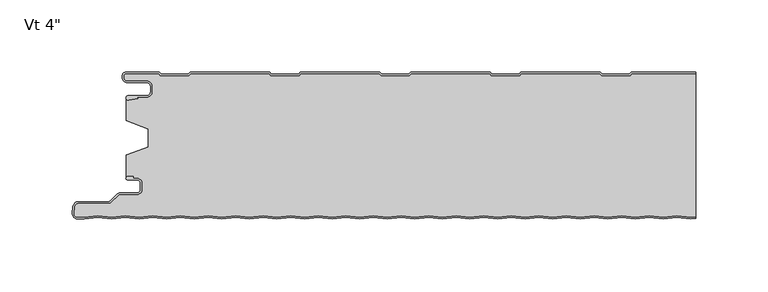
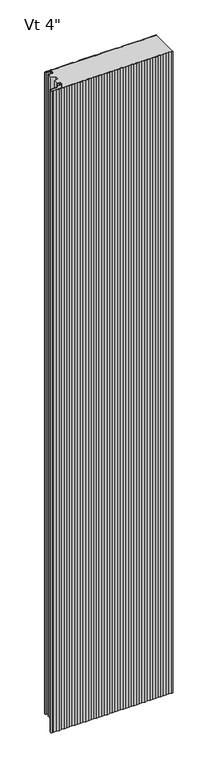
"""IFC4 building model written with IfcOpenShell, lengths in millimetres: plate geometry."""

from ifc_helpers import new_model, si_unit, point, frame, frame_2d, origin, origin_with_axes, place, context, project, spatial, polyline, circle_curve, trimmed, segment, composite_curve, outline, extrude, source, transform, mapped, element, save
from ifc_brep_helpers import plane_surface, cylinder_surface, revolved_surface, advanced_brep


def plate_d31e28da(model_context):
    return source(origin(), model_context, "Body", "SolidModel", [
        extrude(outline(composite_curve([segment(polyline([(-196.9639401, -1.03e-05), (-173.8991777, -1.03e-05), (-172.6989573, -1.2002307), (-153.8919247, -1.2002307), (-152.6916939, 0.0), (-97.6993404, 0.0), (-96.4991097, -1.2002307), (-77.6920771, -1.2002307), (-76.4918463, 0.0), (-21.5159312, 0.0), (-20.3157004, -1.2002307), (-1.5086678, -1.2002307), (-0.3084371, 0.0), (54.667478, 0.0), (55.8677088, -1.2002307), (74.6747414, -1.2002307), (75.8749721, 0.0), (130.8673256, 0.0), (132.0675564, -1.2002307), (150.874589, -1.2002307), (152.0748197, 0.0), (196.6137654, 0.0), (196.6137654, -1.0), (152.4890333, -1.0), (151.2888025, -2.2002307), (131.6533428, -2.2002307), (130.4531121, -1.0), (76.2891857, -1.0), (75.0889549, -2.2002307), (55.4534952, -2.2002307), (54.2532645, -1.0), (0.1057765, -1.0), (-1.0944543, -2.2002307), (-20.729914, -2.2002307), (-21.9301447, -1.0), (-76.0776328, -1.0), (-77.2778635, -2.2002307), (-96.9133232, -2.2002307), (-98.113554, -1.0), (-152.2774804, -1.0), (-153.4777111, -2.2002307), (-173.1131708, -2.2002307), (-174.3133912, -1.0000103), (-196.9839768, -1.0000103)]), True, "CONTINUOUS"), segment(trimmed(circle_curve(frame_2d((-197.0487242, -2.3984828)), 1.3999705), [point((-196.9839768, -1.0000103))], [point((-198.4486947, -2.3984828))], True, "CARTESIAN"), True, "CONTINUOUS"), segment(polyline([(-198.4486947, -2.3984828), (-198.4486947, -3.9515996)]), True, "CONTINUOUS"), segment(trimmed(circle_curve(frame_2d((-196.2386394, -3.9515996)), 2.2100553), [point((-198.4486947, -3.9515996))], [point((-196.2386394, -6.1616549))], True, "CARTESIAN"), True, "CONTINUOUS"), segment(polyline([(-196.2386394, -6.1616549), (-182.7094114, -6.1616549)]), True, "CONTINUOUS"), segment(trimmed(circle_curve(frame_2d((-182.7094114, -9.881641)), 3.7199861), [point((-182.7094114, -6.1616549))], [point((-178.9894252, -9.881641))], False, "CARTESIAN"), True, "CONTINUOUS"), segment(polyline([(-178.9894252, -9.881641), (-178.9894252, -13.5282389)]), True, "CONTINUOUS"), segment(trimmed(circle_curve(frame_2d((-182.7094216, -13.5282389)), 3.7199964), [point((-178.9894252, -13.5282389))], [point((-182.7094216, -17.2482353))], False, "CARTESIAN"), True, "CONTINUOUS"), segment(polyline([(-182.7094216, -17.2482353), (-189.0545396, -17.2482353), (-188.8919338, -18.1704184), (-195.1454629, -19.2730843)]), True, "CONTINUOUS"), segment(trimmed(circle_curve(frame_2d((-195.4101029, -17.7722363)), 1.524001), [point((-195.1454629, -19.2730843))], [point((-195.4101029, -16.2482353))], False, "CARTESIAN"), True, "CONTINUOUS"), segment(polyline([(-195.4101029, -16.2482353), (-182.7094216, -16.2482353)]), True, "CONTINUOUS"), segment(trimmed(circle_curve(frame_2d((-182.7094216, -13.5282389)), 2.7199964), [point((-182.7094216, -16.2482353))], [point((-179.9894252, -13.5282389))], True, "CARTESIAN"), True, "CONTINUOUS"), segment(polyline([(-179.9894252, -13.5282389), (-179.9894252, -9.881641)]), True, "CONTINUOUS"), segment(trimmed(circle_curve(frame_2d((-182.7094114, -9.881641)), 2.7199861), [point((-179.9894252, -9.881641))], [point((-182.7094114, -7.1616549))], True, "CARTESIAN"), True, "CONTINUOUS"), segment(polyline([(-182.7094114, -7.1616549), (-196.2386394, -7.1616549)]), True, "CONTINUOUS"), segment(trimmed(circle_curve(frame_2d((-196.2386394, -3.9515996)), 3.2100553), [point((-196.2386394, -7.1616549))], [point((-199.4486948, -3.9515996))], False, "CARTESIAN"), True, "CONTINUOUS"), segment(polyline([(-199.4486948, -3.9515996), (-199.4486947, -2.3984828)]), True, "CONTINUOUS"), segment(trimmed(circle_curve(frame_2d((-197.0487242, -2.3984828)), 2.3999705), [point((-199.4486947, -2.3984828))], [point((-196.9639401, -1.03e-05))], False, "CARTESIAN"), True, "CONTINUOUS")], self_intersect=False)), origin_with_axes(), (0.0, 0.0, 1.0), 2400.0),
        extrude(outline(composite_curve([segment(polyline([(-195.7329864, -72.0783009), (-191.9745857, -72.0783009), (-191.9745857, -73.4767845), (-189.2754693, -73.4767845)]), True, "CONTINUOUS"), segment(trimmed(circle_curve(frame_2d((-189.2754693, -76.8267844)), 3.3499999), [point((-189.2754693, -73.4767845))], [point((-185.9254694, -76.8267844))], False, "CARTESIAN"), True, "CONTINUOUS"), segment(polyline([(-185.9254694, -76.8267844), (-185.9254694, -81.2267842)]), True, "CONTINUOUS"), segment(trimmed(circle_curve(frame_2d((-189.2754693, -81.2267842)), 3.3499999), [point((-185.9254694, -81.2267842))], [point((-189.2754693, -84.5767841))], False, "CARTESIAN"), True, "CONTINUOUS"), segment(polyline([(-189.2754693, -84.5767841), (-201.0863815, -84.5767841)]), True, "CONTINUOUS"), segment(trimmed(circle_curve(frame_2d((-201.0863815, -86.2767841)), 1.7), [point((-201.0863815, -84.5767841))], [point((-202.288463, -85.0747026))], True, "CARTESIAN"), True, "CONTINUOUS"), segment(polyline([(-202.288463, -85.0747026), (-207.029022, -89.8152615)]), True, "CONTINUOUS"), segment(trimmed(circle_curve(frame_2d((-208.8674996, -87.9767839)), 2.6), [point((-207.029022, -89.8152615))], [point((-208.8674996, -90.5767839))], False, "CARTESIAN"), True, "CONTINUOUS"), segment(polyline([(-208.8674996, -90.5767839), (-229.8742569, -90.5767839)]), True, "CONTINUOUS"), segment(trimmed(circle_curve(frame_2d((-229.8742569, -93.2767839)), 2.7), [point((-229.8742569, -90.5767839))], [point((-232.563964, -93.0412511))], True, "CARTESIAN"), True, "CONTINUOUS"), segment(polyline([(-232.563964, -93.0412511), (-232.9796492, -97.7882397)]), True, "CONTINUOUS"), segment(trimmed(circle_curve(frame_2d((-230.4287597, -98.0116164)), 2.5606512), [point((-232.9796492, -97.7882397))], [point((-230.4287597, -100.5722676))], True, "CARTESIAN"), True, "CONTINUOUS"), segment(polyline([(-230.4287597, -100.5722676), (-225.7790982, -100.5722676), (-216.4481844, -99.5350254), (-206.9232034, -100.5938405), (-197.3982225, -99.5350254), (-187.8732415, -100.5938405), (-178.3482606, -99.5350254), (-168.8232796, -100.5938405), (-159.2982987, -99.5350254), (-149.7733177, -100.5938405), (-140.2483368, -99.5350254), (-130.7233558, -100.5938405), (-121.1983749, -99.5350254), (-111.6733939, -100.5938405), (-102.148413, -99.5350254), (-92.623432, -100.5938405), (-83.0984511, -99.5350254), (-73.5734701, -100.5938405), (-64.0484892, -99.5350254), (-54.5235082, -100.5938405), (-44.9985273, -99.5350254), (-35.4735463, -100.5938405), (-25.9485654, -99.5350254), (-16.4235844, -100.5938405), (-6.8986035, -99.5350254), (2.6263775, -100.5938405), (12.1513584, -99.5350254), (21.6763394, -100.5938405), (31.2013203, -99.5350254), (40.7263013, -100.5938405), (50.2512822, -99.5350254), (59.7762632, -100.5938405), (69.3012441, -99.5350254), (78.8262251, -100.5938405), (88.351206, -99.5350254), (97.876187, -100.5938405), (107.4011679, -99.5350254), (116.9261489, -100.5938405), (126.4511298, -99.5350254), (135.9761108, -100.5938405), (145.5010917, -99.5350254), (155.0260727, -100.5938405), (164.5510536, -99.5350254), (174.0760346, -100.5938405), (183.6010155, -99.5350254), (193.1259965, -100.5938405), (196.6137654, -100.2061334), (196.6137654, -101.2122929), (193.1259965, -101.6), (183.6010155, -100.5411849), (174.0760346, -101.6), (164.5510536, -100.5411849), (155.0260727, -101.6), (145.5010917, -100.5411849), (135.9761108, -101.6), (126.4511298, -100.5411849), (116.9261489, -101.6), (107.4011679, -100.5411849), (97.876187, -101.6), (88.351206, -100.5411849), (78.8262251, -101.6), (69.3012441, -100.5411849), (59.7762632, -101.6), (50.2512822, -100.5411849), (40.7263013, -101.6), (31.2013203, -100.5411849), (21.6763394, -101.6), (12.1513584, -100.5411849), (2.6263775, -101.6), (-6.8986035, -100.5411849), (-16.4235844, -101.6), (-25.9485654, -100.5411849), (-35.4735463, -101.6), (-44.9985273, -100.5411849), (-54.5235082, -101.6), (-64.0484892, -100.5411849), (-73.5734701, -101.6), (-83.0984511, -100.5411849), (-92.623432, -101.6), (-102.148413, -100.5411849), (-111.6733939, -101.6), (-121.1983749, -100.5411849), (-130.7233558, -101.6), (-140.2483368, -100.5411849), (-149.7733177, -101.6), (-159.2982987, -100.5411849), (-168.8232796, -101.6), (-178.3482606, -100.5411849), (-187.8732415, -101.6), (-197.3982225, -100.5411849), (-206.9232034, -101.6), (-216.4481844, -100.5411849), (-225.7236879, -101.5722676), (-230.4287597, -101.5722676)]), True, "CONTINUOUS"), segment(trimmed(circle_curve(frame_2d((-230.4287597, -98.0116164)), 3.5606512), [point((-230.4287597, -101.5722676))], [point((-233.975837, -97.7010053))], False, "CARTESIAN"), True, "CONTINUOUS"), segment(polyline([(-233.975837, -97.7010053), (-233.5601518, -92.9540168)]), True, "CONTINUOUS"), segment(trimmed(circle_curve(frame_2d((-229.8742569, -93.2767839)), 3.7), [point((-233.5601518, -92.9540168))], [point((-229.8742569, -89.5767839))], False, "CARTESIAN"), True, "CONTINUOUS"), segment(polyline([(-229.8742569, -89.5767839), (-208.8674996, -89.5767839)]), True, "CONTINUOUS"), segment(trimmed(circle_curve(frame_2d((-208.8674996, -87.9767839)), 1.6), [point((-208.8674996, -89.5767839))], [point((-207.7361288, -89.1081547))], True, "CARTESIAN"), True, "CONTINUOUS"), segment(polyline([(-207.7361288, -89.1081547), (-202.9955698, -84.3675958)]), True, "CONTINUOUS"), segment(trimmed(circle_curve(frame_2d((-201.0863815, -86.2767841)), 2.7), [point((-202.9955698, -84.3675958))], [point((-201.0863815, -83.5767841))], False, "CARTESIAN"), True, "CONTINUOUS"), segment(polyline([(-201.0863815, -83.5767841), (-189.2754693, -83.5767841)]), True, "CONTINUOUS"), segment(trimmed(circle_curve(frame_2d((-189.2754693, -81.2267842)), 2.3499999), [point((-189.2754693, -83.5767841))], [point((-186.9254694, -81.2267842))], True, "CARTESIAN"), True, "CONTINUOUS"), segment(polyline([(-186.9254694, -81.2267842), (-186.9254694, -76.8267844)]), True, "CONTINUOUS"), segment(trimmed(circle_curve(frame_2d((-189.2754693, -76.8267844)), 2.3499999), [point((-186.9254694, -76.8267844))], [point((-189.2754693, -74.4767845))], True, "CARTESIAN"), True, "CONTINUOUS"), segment(polyline([(-189.2754693, -74.4767845), (-195.7947883, -74.4767845)]), True, "CONTINUOUS"), segment(trimmed(circle_curve(frame_2d((-195.734501, -73.2782999)), 1.2), [point((-195.7947883, -74.4767845))], [point((-195.7329864, -72.0783009))], False, "CARTESIAN"), True, "CONTINUOUS")], self_intersect=False)), origin_with_axes(), (0.0, 0.0, 1.0), 2400.0),
        advanced_brep(
        [(-189.2754693, -73.482944, 2400.0), (-185.9254694, -76.8329439, 2400.0), (-185.9254694, -81.2329437, 2400.0), (-189.2754693, -84.5829436, 2400.0), (-201.0863815, -84.5829436, 2400.0), (-202.288463, -85.0808621, 2400.0), (-207.029022, -89.821421, 2400.0), (-208.8674996, -90.5829434, 2400.0), (-229.8742569, -90.5829434, 2400.0), (-232.563964, -93.0474106, 2400.0), (-232.9796492, -97.7943992, 2400.0), (-230.4287597, -100.5784271, 2400.0), (-225.77874, -100.5784271, 2400.0), (-216.4478261, -99.5411849, 2400.0), (-206.9228452, -100.6, 2400.0), (-197.3978642, -99.5411849, 2400.0), (-187.8728833, -100.6, 2400.0), (-178.3479023, -99.5411849, 2400.0), (-168.8229214, -100.6, 2400.0), (-159.2979404, -99.5411849, 2400.0), (-149.7729595, -100.6, 2400.0), (-140.2479785, -99.5411849, 2400.0), (-130.7229976, -100.6, 2400.0), (-121.1980166, -99.5411849, 2400.0), (-111.6730357, -100.6, 2400.0), (-102.1480547, -99.5411849, 2400.0), (-92.6230738, -100.6, 2400.0), (-83.0980928, -99.5411849, 2400.0), (-73.5731119, -100.6, 2400.0), (-64.0481309, -99.5411849, 2400.0), (-54.52315, -100.6, 2400.0), (-44.998169, -99.5411849, 2400.0), (-35.4731881, -100.6, 2400.0), (-25.9482071, -99.5411849, 2400.0), (-16.4232262, -100.6, 2400.0), (-6.8982452, -99.5411849, 2400.0), (2.6267357, -100.6, 2400.0), (12.1517167, -99.5411849, 2400.0), (21.6766976, -100.6, 2400.0), (31.2016786, -99.5411849, 2400.0), (40.7266595, -100.6, 2400.0), (50.2516405, -99.5411849, 2400.0), (59.7766214, -100.6, 2400.0), (69.3016024, -99.5411849, 2400.0), (78.8265833, -100.6, 2400.0), (88.3515643, -99.5411849, 2400.0), (97.8765452, -100.6, 2400.0), (107.4015262, -99.5411849, 2400.0), (116.9265071, -100.6, 2400.0), (126.4514881, -99.5411849, 2400.0), (135.976469, -100.6, 2400.0), (145.50145, -99.5411849, 2400.0), (155.0264309, -100.6, 2400.0), (164.5514119, -99.5411849, 2400.0), (174.0763928, -100.6, 2400.0), (183.6013738, -99.5411849, 2400.0), (193.1263547, -100.6, 2400.0), (196.6137654, -100.2123328, 2400.0), (196.6137654, -1.0, 2400.0), (152.4890333, -1.0, 2400.0), (151.2888025, -2.2002307, 2400.0), (131.6533428, -2.2002307, 2400.0), (130.4531121, -1.0, 2400.0), (76.2891857, -1.0, 2400.0), (75.0889549, -2.2002307, 2400.0), (55.4534952, -2.2002307, 2400.0), (54.2532645, -1.0, 2400.0), (0.1057765, -1.0, 2400.0), (-1.0944543, -2.2002307, 2400.0), (-20.729914, -2.2002307, 2400.0), (-21.9301447, -1.0, 2400.0), (-76.0776328, -1.0, 2400.0), (-77.2778635, -2.2002307, 2400.0), (-96.9133232, -2.2002307, 2400.0), (-98.113554, -1.0, 2400.0), (-152.2774804, -1.0, 2400.0), (-153.4777111, -2.2002307, 2400.0), (-173.1131708, -2.2002307, 2400.0), (-174.3133912, -1.0000103, 2400.0), (-196.9839768, -1.0000103, 2400.0), (-198.4486947, -2.3984828, 2400.0), (-198.4486947, -3.9515996, 2400.0), (-196.2386394, -6.1616549, 2400.0), (-182.7094114, -6.1616549, 2400.0), (-178.9894252, -9.881641, 2400.0), (-178.9894252, -13.5282389, 2400.0), (-182.7094216, -17.2482353, 2400.0), (-189.0545396, -17.2482353, 2400.0), (-188.8919338, -18.1704184, 2400.0), (-195.1454629, -19.2730843, 2400.0), (-196.5999998, -18.7244571, 2400.0), (-196.5999998, -33.5050578, 2400.0), (-181.6020466, -39.1301019, 2400.0), (-181.588281, -51.7686066, 2400.0), (-196.5999998, -57.3712613, 2400.0), (-196.5999998, -72.4532484, 2400.0), (-195.7329864, -72.0844604, 2400.0), (-191.9745857, -72.0844604, 2400.0), (-191.9745857, -73.482944, 2400.0), (-189.2754693, -73.482944, 0.0), (-191.9745857, -73.482944, 0.0), (-191.9745857, -72.0844604, 0.0), (-195.7329864, -72.0844604, 0.0), (-196.5999998, -72.4532484, 0.0), (-196.5999998, -57.3712613, 0.0), (-181.6020466, -51.7470337, 0.0), (-181.588281, -39.1301019, 0.0), (-196.5999998, -33.5050578, 0.0), (-196.5999998, -18.7244571, 0.0), (-195.1454629, -19.2730843, 0.0), (-188.8919338, -18.1704184, 0.0), (-189.0545396, -17.2482353, 0.0), (-182.7094216, -17.2482353, 0.0), (-178.9894252, -13.5282389, 0.0), (-178.9894252, -9.881641, 0.0), (-182.7094114, -6.1616549, 0.0), (-196.2386394, -6.1616549, 0.0), (-198.4486948, -3.9515996, 0.0), (-198.4486947, -2.3984828, 0.0), (-196.9839768, -1.0000103, 0.0), (-174.3133912, -1.0000103, 0.0), (-173.1131708, -2.2002307, 0.0), (-153.4777111, -2.2002307, 0.0), (-152.2774804, -1.0, 0.0), (-98.113554, -1.0, 0.0), (-96.9133232, -2.2002307, 0.0), (-77.2778635, -2.2002307, 0.0), (-76.0776328, -1.0, 0.0), (-21.9301447, -1.0, 0.0), (-20.729914, -2.2002307, 0.0), (-1.0944543, -2.2002307, 0.0), (0.1057765, -1.0, 0.0), (54.2532645, -1.0, 0.0), (55.4534952, -2.2002307, 0.0), (75.0889549, -2.2002307, 0.0), (76.2891857, -1.0, 0.0), (130.4531121, -1.0, 0.0), (131.6533428, -2.2002307, 0.0), (151.2888025, -2.2002307, 0.0), (152.4890333, -1.0, 0.0), (196.6137654, -1.0, 0.0), (196.6137654, -100.2123328, 0.0), (193.1263547, -100.6, 0.0), (183.6013738, -99.5411849, 0.0), (174.0763928, -100.6, 0.0), (164.5514119, -99.5411849, 0.0), (155.0264309, -100.6, 0.0), (145.50145, -99.5411849, 0.0), (135.976469, -100.6, 0.0), (126.4514881, -99.5411849, 0.0), (116.9265071, -100.6, 0.0), (107.4015262, -99.5411849, 0.0), (97.8765452, -100.6, 0.0), (88.3515643, -99.5411849, 0.0), (78.8265833, -100.6, 0.0), (69.3016024, -99.5411849, 0.0), (59.7766214, -100.6, 0.0), (50.2516405, -99.5411849, 0.0), (40.7266595, -100.6, 0.0), (31.2016786, -99.5411849, 0.0), (21.6766976, -100.6, 0.0), (12.1517167, -99.5411849, 0.0), (2.6267357, -100.6, 0.0), (-6.8982452, -99.5411849, 0.0), (-16.4232262, -100.6, 0.0), (-25.9482071, -99.5411849, 0.0), (-35.4731881, -100.6, 0.0), (-44.998169, -99.5411849, 0.0), (-54.52315, -100.6, 0.0), (-64.0481309, -99.5411849, 0.0), (-73.5731119, -100.6, 0.0), (-83.0980928, -99.5411849, 0.0), (-92.6230738, -100.6, 0.0), (-102.1480547, -99.5411849, 0.0), (-111.6730357, -100.6, 0.0), (-121.1980166, -99.5411849, 0.0), (-130.7229976, -100.6, 0.0), (-140.2479785, -99.5411849, 0.0), (-149.7729595, -100.6, 0.0), (-159.2979404, -99.5411849, 0.0), (-168.8229214, -100.6, 0.0), (-178.3479023, -99.5411849, 0.0), (-187.8728833, -100.6, 0.0), (-197.3978642, -99.5411849, 0.0), (-206.9228452, -100.6, 0.0), (-216.4478261, -99.5411849, 0.0), (-225.77874, -100.5784271, 0.0), (-230.4287597, -100.5784271, 0.0), (-232.9796492, -97.7943992, 0.0), (-232.563964, -93.0474106, 0.0), (-229.8742569, -90.5829434, 0.0), (-208.8674996, -90.5829434, 0.0), (-207.029022, -89.821421, 0.0), (-202.288463, -85.0808621, 0.0), (-201.0863815, -84.5829436, 0.0), (-189.2754693, -84.5829436, 0.0), (-185.9254694, -81.2329437, 0.0), (-185.9254694, -76.8329439, 0.0)],
        [
            (0, 1, circle_curve(frame((-189.2754693, -76.8329439, 2400.0), z_axis=(0.0, 0.0, -1.0), x_axis=(-1.0, 0.0, 0.0)), 3.3499999)),
            (1, 2),
            (2, 3, circle_curve(frame((-189.2754693, -81.2329437, 2400.0), z_axis=(0.0, 0.0, -1.0), x_axis=(-1.0, 0.0, 0.0)), 3.3499999)),
            (3, 4),
            (4, 5, circle_curve(frame((-201.0863815, -86.2829436, 2400.0), z_axis=(0.0, 0.0, 1.0), x_axis=(-1.0, 0.0, 0.0)), 1.7)),
            (5, 6),
            (6, 7, circle_curve(frame((-208.8674996, -87.9829434, 2400.0), z_axis=(0.0, 0.0, -1.0), x_axis=(-1.0, 0.0, 0.0)), 2.6)),
            (7, 8),
            (8, 9, circle_curve(frame((-229.8742569, -93.2829434, 2400.0), z_axis=(0.0, 0.0, 1.0), x_axis=(-1.0, 0.0, 0.0)), 2.7)),
            (9, 10),
            (10, 11, circle_curve(frame((-230.4287597, -98.017776, 2400.0), z_axis=(0.0, 0.0, 1.0), x_axis=(-1.0, 0.0, 0.0)), 2.5606512)),
            (11, 12),
            (12, 13),
            (13, 14),
            (14, 15),
            (15, 16),
            (16, 17),
            (17, 18),
            (18, 19),
            (19, 20),
            (20, 21),
            (21, 22),
            (22, 23),
            (23, 24),
            (24, 25),
            (25, 26),
            (26, 27),
            (27, 28),
            (28, 29),
            (29, 30),
            (30, 31),
            (31, 32),
            (32, 33),
            (33, 34),
            (34, 35),
            (35, 36),
            (36, 37),
            (37, 38),
            (38, 39),
            (39, 40),
            (40, 41),
            (41, 42),
            (42, 43),
            (43, 44),
            (44, 45),
            (45, 46),
            (46, 47),
            (47, 48),
            (48, 49),
            (49, 50),
            (50, 51),
            (51, 52),
            (52, 53),
            (53, 54),
            (54, 55),
            (55, 56),
            (56, 57),
            (57, 58),
            (58, 59),
            (59, 60),
            (60, 61),
            (61, 62),
            (62, 63),
            (63, 64),
            (64, 65),
            (65, 66),
            (66, 67),
            (67, 68),
            (68, 69),
            (69, 70),
            (70, 71),
            (71, 72),
            (72, 73),
            (73, 74),
            (74, 75),
            (75, 76),
            (76, 77),
            (77, 78),
            (78, 79),
            (79, 80, circle_curve(frame((-197.0487242, -2.3984828, 2400.0), z_axis=(0.0, 0.0, 1.0), x_axis=(-1.0, 0.0, 0.0)), 1.3999705)),
            (80, 81),
            (81, 82, circle_curve(frame((-196.2386394, -3.9515996, 2400.0), z_axis=(0.0, 0.0, 1.0), x_axis=(-1.0, 0.0, 0.0)), 2.2100553)),
            (82, 83),
            (83, 84, circle_curve(frame((-182.7094114, -9.881641, 2400.0), z_axis=(0.0, 0.0, -1.0), x_axis=(-1.0, 0.0, 0.0)), 3.7199861)),
            (84, 85),
            (85, 86, circle_curve(frame((-182.7094216, -13.5282389, 2400.0), z_axis=(0.0, 0.0, -1.0), x_axis=(-1.0, 0.0, 0.0)), 3.7199964)),
            (86, 87),
            (87, 88),
            (88, 89),
            (89, 90, circle_curve(frame((-195.4101029, -17.7722363, 2400.0), z_axis=(0.0, 0.0, -1.0), x_axis=(-1.0, 0.0, 0.0)), 1.524001)),
            (90, 91),
            (91, 92),
            (92, 93),
            (93, 94),
            (94, 95),
            (95, 96, circle_curve(frame((-195.734501, -73.2844594, 2400.0), z_axis=(0.0, 0.0, -1.0), x_axis=(-1.0, 0.0, 0.0)), 1.2)),
            (96, 97),
            (97, 98),
            (98, 0),
            (99, 100),
            (100, 101),
            (101, 102),
            (102, 103, circle_curve(frame((-195.734501, -73.2844594, 0.0), z_axis=(0.0, 0.0, 1.0), x_axis=(-1.0, 0.0, 0.0)), 1.2)),
            (103, 104),
            (104, 105),
            (105, 106),
            (106, 107),
            (107, 108),
            (108, 109, circle_curve(frame((-195.4101029, -17.7722363, 0.0), z_axis=(0.0, 0.0, 1.0), x_axis=(-1.0, 0.0, 0.0)), 1.524001)),
            (109, 110),
            (110, 111),
            (111, 112),
            (112, 113, circle_curve(frame((-182.7094216, -13.5282389, 0.0), z_axis=(0.0, 0.0, 1.0), x_axis=(-1.0, 0.0, 0.0)), 3.7199964)),
            (113, 114),
            (114, 115, circle_curve(frame((-182.7094114, -9.881641, 0.0), z_axis=(0.0, 0.0, 1.0), x_axis=(-1.0, 0.0, 0.0)), 3.7199861)),
            (115, 116),
            (116, 117, circle_curve(frame((-196.2386394, -3.9515996, 0.0), z_axis=(0.0, 0.0, -1.0), x_axis=(-1.0, 0.0, 0.0)), 2.2100553)),
            (117, 118),
            (118, 119, circle_curve(frame((-197.0487242, -2.3984828, 0.0), z_axis=(0.0, 0.0, -1.0), x_axis=(-1.0, 0.0, 0.0)), 1.3999705)),
            (119, 120),
            (120, 121),
            (121, 122),
            (122, 123),
            (123, 124),
            (124, 125),
            (125, 126),
            (126, 127),
            (127, 128),
            (128, 129),
            (129, 130),
            (130, 131),
            (131, 132),
            (132, 133),
            (133, 134),
            (134, 135),
            (135, 136),
            (136, 137),
            (137, 138),
            (138, 139),
            (139, 140),
            (140, 141),
            (141, 142),
            (142, 143),
            (143, 144),
            (144, 145),
            (145, 146),
            (146, 147),
            (147, 148),
            (148, 149),
            (149, 150),
            (150, 151),
            (151, 152),
            (152, 153),
            (153, 154),
            (154, 155),
            (155, 156),
            (156, 157),
            (157, 158),
            (158, 159),
            (159, 160),
            (160, 161),
            (161, 162),
            (162, 163),
            (163, 164),
            (164, 165),
            (165, 166),
            (166, 167),
            (167, 168),
            (168, 169),
            (169, 170),
            (170, 171),
            (171, 172),
            (172, 173),
            (173, 174),
            (174, 175),
            (175, 176),
            (176, 177),
            (177, 178),
            (178, 179),
            (179, 180),
            (180, 181),
            (181, 182),
            (182, 183),
            (183, 184),
            (184, 185),
            (185, 186),
            (186, 187),
            (187, 188, circle_curve(frame((-230.4287597, -98.017776, 0.0), z_axis=(0.0, 0.0, -1.0), x_axis=(-1.0, 0.0, 0.0)), 2.5606512)),
            (188, 189),
            (189, 190, circle_curve(frame((-229.8742569, -93.2829434, 0.0), z_axis=(0.0, 0.0, -1.0), x_axis=(-1.0, 0.0, 0.0)), 2.7)),
            (190, 191),
            (191, 192, circle_curve(frame((-208.8674996, -87.9829434, 0.0), z_axis=(0.0, 0.0, 1.0), x_axis=(-1.0, 0.0, 0.0)), 2.6)),
            (192, 193),
            (193, 194, circle_curve(frame((-201.0863815, -86.2829436, 0.0), z_axis=(0.0, 0.0, -1.0), x_axis=(-1.0, 0.0, 0.0)), 1.7)),
            (194, 195),
            (195, 196, circle_curve(frame((-189.2754693, -81.2329437, 0.0), z_axis=(0.0, 0.0, 1.0), x_axis=(-1.0, 0.0, 0.0)), 3.3499999)),
            (196, 197),
            (197, 99, circle_curve(frame((-189.2754693, -76.8329439, 0.0), z_axis=(0.0, 0.0, 1.0), x_axis=(-1.0, 0.0, 0.0)), 3.3499999)),
            (83, 115),
            (114, 84),
            (82, 116),
            (81, 117),
            (80, 118),
            (79, 119),
            (78, 120),
            (77, 121),
            (76, 122),
            (75, 123),
            (74, 124),
            (73, 125),
            (72, 126),
            (71, 127),
            (70, 128),
            (69, 129),
            (68, 130),
            (67, 131),
            (66, 132),
            (65, 133),
            (64, 134),
            (63, 135),
            (62, 136),
            (61, 137),
            (60, 138),
            (59, 139),
            (58, 140),
            (91, 107),
            (106, 92),
            (90, 108),
            (89, 109),
            (88, 110),
            (87, 111),
            (86, 112),
            (85, 113),
            (105, 93),
            (10, 188),
            (187, 11),
            (9, 189),
            (8, 190),
            (6, 192),
            (191, 7),
            (5, 193),
            (4, 194),
            (3, 195),
            (2, 196),
            (1, 197),
            (94, 104),
            (103, 95),
            (141, 57),
            (56, 142),
            (55, 143),
            (54, 144),
            (53, 145),
            (52, 146),
            (51, 147),
            (50, 148),
            (49, 149),
            (48, 150),
            (47, 151),
            (46, 152),
            (45, 153),
            (44, 154),
            (43, 155),
            (42, 156),
            (41, 157),
            (40, 158),
            (39, 159),
            (38, 160),
            (37, 161),
            (36, 162),
            (35, 163),
            (34, 164),
            (33, 165),
            (32, 166),
            (31, 167),
            (30, 168),
            (29, 169),
            (28, 170),
            (27, 171),
            (26, 172),
            (25, 173),
            (24, 174),
            (23, 175),
            (22, 176),
            (21, 177),
            (20, 178),
            (19, 179),
            (18, 180),
            (17, 181),
            (16, 182),
            (15, 183),
            (14, 184),
            (13, 185),
            (12, 186),
            (102, 96),
            (101, 97),
            (100, 98),
            (0, 99),
        ],
        [
            plane_surface(frame((336.2637657, -100.6, 2400.0), z_axis=(0.0, 0.0, 1.0), x_axis=(0.0, -1.0, 0.0))),
            plane_surface(frame((336.2637657, -100.6, 0.0), z_axis=(0.0, 0.0, -1.0), x_axis=(0.0, -1.0, 0.0))),
            revolved_surface(polyline([(-186.4293975, -9.881641, 0.0), (-186.4293975, -9.881641, 2400.0)]), (-182.7094114, -9.881641, 2400.0), (0.0, 0.0, -1.0)),
            plane_surface(frame((-182.7094114, -6.1616549, 2400.0), z_axis=(0.0, -1.0, 0.0), x_axis=(0.0, 0.0, -1.0))),
            cylinder_surface(frame((-196.2386394, -3.9515996, 2400.0), z_axis=(0.0, 0.0, 1.0), x_axis=(-1.0, 0.0, 0.0)), 2.2100553),
            plane_surface(frame((-198.4486947, -3.9515996, 2400.0), z_axis=(-1.0, 0.0, 0.0), x_axis=(0.0, 0.0, -1.0))),
            cylinder_surface(frame((-197.0487242, -2.3984828, 2400.0), z_axis=(0.0, 0.0, 1.0), x_axis=(-1.0, 0.0, 0.0)), 1.3999705),
            plane_surface(frame((-196.9839768, -1.0000103, 2400.0), z_axis=(0.0, 1.0, 0.0), x_axis=(0.0, 0.0, -1.0))),
            plane_surface(frame((-174.3133912, -1.0000103, 2400.0), z_axis=(0.7071067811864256, 0.7071067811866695, 0.0), x_axis=(0.0, 0.0, -1.0))),
            plane_surface(frame((-163.295441, -2.2002307, 2400.0), z_axis=(0.0, 1.0, 0.0), x_axis=(0.0, 0.0, -1.0))),
            plane_surface(frame((-153.4777111, -2.2002307, 2400.0), z_axis=(-0.7071067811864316, 0.7071067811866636, 0.0), x_axis=(0.0, 0.0, -1.0))),
            plane_surface(frame((-152.2774804, -1.0, 2400.0), z_axis=(0.0, 1.0, 0.0), x_axis=(0.0, 0.0, -1.0))),
            plane_surface(frame((-98.113554, -1.0, 2400.0), z_axis=(0.7071067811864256, 0.7071067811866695, 0.0), x_axis=(0.0, 0.0, -1.0))),
            plane_surface(frame((-87.0955934, -2.2002307, 2400.0), z_axis=(0.0, 1.0, 0.0), x_axis=(0.0, 0.0, -1.0))),
            plane_surface(frame((-77.2778635, -2.2002307, 2400.0), z_axis=(-0.7071067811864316, 0.7071067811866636, 0.0), x_axis=(0.0, 0.0, -1.0))),
            plane_surface(frame((-76.0776328, -1.0, 2400.0), z_axis=(0.0, 1.0, 0.0), x_axis=(0.0, 0.0, -1.0))),
            plane_surface(frame((-21.9301447, -1.0, 2400.0), z_axis=(0.7071067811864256, 0.7071067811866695, 0.0), x_axis=(0.0, 0.0, -1.0))),
            plane_surface(frame((-10.9121841, -2.2002307, 2400.0), z_axis=(0.0, 1.0, 0.0), x_axis=(0.0, 0.0, -1.0))),
            plane_surface(frame((-1.0944543, -2.2002307, 2400.0), z_axis=(-0.7071067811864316, 0.7071067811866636, 0.0), x_axis=(0.0, 0.0, -1.0))),
            plane_surface(frame((0.1057765, -1.0, 2400.0), z_axis=(0.0, 1.0, 0.0), x_axis=(0.0, 0.0, -1.0))),
            plane_surface(frame((54.2532645, -1.0, 2400.0), z_axis=(0.7071067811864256, 0.7071067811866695, 0.0), x_axis=(0.0, 0.0, -1.0))),
            plane_surface(frame((65.2712251, -2.2002307, 2400.0), z_axis=(0.0, 1.0, 0.0), x_axis=(0.0, 0.0, -1.0))),
            plane_surface(frame((75.0889549, -2.2002307, 2400.0), z_axis=(-0.7071067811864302, 0.7071067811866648, 0.0), x_axis=(0.0, 0.0, -1.0))),
            plane_surface(frame((76.2891857, -1.0, 2400.0), z_axis=(0.0, 1.0, 0.0), x_axis=(0.0, 0.0, -1.0))),
            plane_surface(frame((130.4531121, -1.0, 2400.0), z_axis=(0.7071067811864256, 0.7071067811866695, 0.0), x_axis=(0.0, 0.0, -1.0))),
            plane_surface(frame((141.4710727, -2.2002307, 2400.0), z_axis=(0.0, 1.0, 0.0), x_axis=(0.0, 0.0, -1.0))),
            plane_surface(frame((151.2888025, -2.2002307, 2400.0), z_axis=(-0.7071067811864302, 0.7071067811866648, 0.0), x_axis=(0.0, 0.0, -1.0))),
            plane_surface(frame((152.4890333, -1.0, 2400.0), z_axis=(0.0, 1.0, 0.0), x_axis=(0.0, 0.0, -1.0))),
            plane_surface(frame((-181.6020466, -39.1301019, 2400.0), z_axis=(-0.35116785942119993, -0.9363125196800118, 0.0), x_axis=(0.0, 0.0, -1.0))),
            plane_surface(frame((-196.5999998, -33.5050578, 2400.0), z_axis=(-1.0, 0.0, 0.0), x_axis=(0.0, 0.0, -1.0))),
            revolved_surface(polyline([(-196.9341039, -17.7722363, 0.0), (-196.9341039, -17.7722363, 2400.0)]), (-195.4101029, -17.7722363, 2400.0), (0.0, 0.0, -1.0)),
            plane_surface(frame((-195.1454629, -19.2730843, 2400.0), z_axis=(-0.17364817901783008, 0.9848077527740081, 0.0), x_axis=(0.0, 0.0, -1.0))),
            plane_surface(frame((-188.8919338, -18.1704184, 2400.0), z_axis=(-0.9848077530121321, -0.17364817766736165, 0.0), x_axis=(0.0, 0.0, -1.0))),
            plane_surface(frame((-189.0545396, -17.2482353, 2400.0), z_axis=(0.0, 1.0, 0.0), x_axis=(0.0, 0.0, -1.0))),
            revolved_surface(polyline([(-186.42941800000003, -13.5282389, 0.0), (-186.42941800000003, -13.5282389, 2400.0)]), (-182.7094216, -13.5282389, 2400.0), (0.0, 0.0, -1.0)),
            plane_surface(frame((-178.9894252, -13.5282389, 2400.0), z_axis=(-1.0, 0.0, 0.0), x_axis=(0.0, 0.0, -1.0))),
            plane_surface(frame((-181.588281, -51.7686066, 2400.0), z_axis=(-1.0, 0.0, 0.0), x_axis=(0.0, 0.0, -1.0))),
            cylinder_surface(frame((-230.4287597, -98.017776, 2400.0), z_axis=(0.0, 0.0, 1.0), x_axis=(-1.0, 0.0, 0.0)), 2.5606512),
            plane_surface(frame((-232.9796492, -97.7943992, 2400.0), z_axis=(-0.9961878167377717, 0.08723436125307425, 0.0), x_axis=(0.0, 0.0, -1.0))),
            cylinder_surface(frame((-229.8742569, -93.2829434, 2400.0), z_axis=(0.0, 0.0, 1.0), x_axis=(-1.0, 0.0, 0.0)), 2.7),
            revolved_surface(polyline([(-211.4674996, -87.9829434, 0.0), (-211.4674996, -87.9829434, 2400.0)]), (-208.8674996, -87.9829434, 2400.0), (0.0, 0.0, -1.0)),
            plane_surface(frame((-207.029022, -89.821421, 2400.0), z_axis=(-0.7071067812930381, 0.7071067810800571, 0.0), x_axis=(0.0, 0.0, -1.0))),
            cylinder_surface(frame((-201.0863815, -86.2829436, 2400.0), z_axis=(0.0, 0.0, 1.0), x_axis=(-1.0, 0.0, 0.0)), 1.7),
            plane_surface(frame((-201.0863815, -84.5829436, 2400.0), z_axis=(0.0, 1.0, 0.0), x_axis=(0.0, 0.0, -1.0))),
            revolved_surface(polyline([(-192.6254692, -81.2329437, 0.0), (-192.6254692, -81.2329437, 2400.0)]), (-189.2754693, -81.2329437, 2400.0), (0.0, 0.0, -1.0)),
            plane_surface(frame((-185.9254694, -81.2329437, 2400.0), z_axis=(-1.0, 0.0, 0.0), x_axis=(0.0, 0.0, -1.0))),
            plane_surface(frame((-196.5999998, -72.4532484, 2400.0), z_axis=(-1.0, 0.0, 0.0), x_axis=(0.0, 0.0, -1.0))),
            plane_surface(frame((-196.5999998, -57.3712613, 2400.0), z_axis=(-0.3511231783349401, 0.9363292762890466, 0.0), x_axis=(0.0, 0.0, -1.0))),
            plane_surface(frame((202.6513357, -99.5411849, 2400.0), z_axis=(0.11048140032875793, -0.9938781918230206, 0.0), x_axis=(0.0, 0.0, -1.0))),
            plane_surface(frame((193.1263547, -100.6, 2400.0), z_axis=(-0.11048140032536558, -0.9938781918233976, 0.0), x_axis=(0.0, 0.0, -1.0))),
            plane_surface(frame((183.6013738, -99.5411849, 2400.0), z_axis=(0.11048140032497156, -0.9938781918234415, 0.0), x_axis=(0.0, 0.0, -1.0))),
            plane_surface(frame((174.0763928, -100.6, 2400.0), z_axis=(-0.11048140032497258, -0.9938781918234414, 0.0), x_axis=(0.0, 0.0, -1.0))),
            plane_surface(frame((164.5514119, -99.5411849, 2400.0), z_axis=(0.11048140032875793, -0.9938781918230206, 0.0), x_axis=(0.0, 0.0, -1.0))),
            plane_surface(frame((155.0264309, -100.6, 2400.0), z_axis=(-0.11048140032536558, -0.9938781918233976, 0.0), x_axis=(0.0, 0.0, -1.0))),
            plane_surface(frame((145.50145, -99.5411849, 2400.0), z_axis=(0.11048140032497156, -0.9938781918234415, 0.0), x_axis=(0.0, 0.0, -1.0))),
            plane_surface(frame((135.976469, -100.6, 2400.0), z_axis=(-0.11048140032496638, -0.9938781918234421, 0.0), x_axis=(0.0, 0.0, -1.0))),
            plane_surface(frame((126.4514881, -99.5411849, 2400.0), z_axis=(0.11048140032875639, -0.9938781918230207, 0.0), x_axis=(0.0, 0.0, -1.0))),
            plane_surface(frame((116.9265071, -100.6, 2400.0), z_axis=(-0.11048140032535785, -0.9938781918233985, 0.0), x_axis=(0.0, 0.0, -1.0))),
            plane_surface(frame((107.4015262, -99.5411849, 2400.0), z_axis=(0.11048140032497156, -0.9938781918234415, 0.0), x_axis=(0.0, 0.0, -1.0))),
            plane_surface(frame((97.8765452, -100.6, 2400.0), z_axis=(-0.11048140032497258, -0.9938781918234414, 0.0), x_axis=(0.0, 0.0, -1.0))),
            plane_surface(frame((88.3515643, -99.5411849, 2400.0), z_axis=(0.11048140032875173, -0.9938781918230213, 0.0), x_axis=(0.0, 0.0, -1.0))),
            plane_surface(frame((78.8265833, -100.6, 2400.0), z_axis=(-0.11048140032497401, -0.9938781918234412, 0.0), x_axis=(0.0, 0.0, -1.0))),
            plane_surface(frame((69.3016024, -99.5411849, 2400.0), z_axis=(0.11048140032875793, -0.9938781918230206, 0.0), x_axis=(0.0, 0.0, -1.0))),
            plane_surface(frame((59.7766214, -100.6, 2400.0), z_axis=(-0.11048140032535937, -0.9938781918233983, 0.0), x_axis=(0.0, 0.0, -1.0))),
            plane_surface(frame((50.2516405, -99.5411849, 2400.0), z_axis=(0.1104814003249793, -0.9938781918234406, 0.0), x_axis=(0.0, 0.0, -1.0))),
            plane_surface(frame((40.7266595, -100.6, 2400.0), z_axis=(-0.11048140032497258, -0.9938781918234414, 0.0), x_axis=(0.0, 0.0, -1.0))),
            plane_surface(frame((31.2016786, -99.5411849, 2400.0), z_axis=(0.11048140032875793, -0.9938781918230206, 0.0), x_axis=(0.0, 0.0, -1.0))),
            plane_surface(frame((21.6766976, -100.6, 2400.0), z_axis=(-0.11048140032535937, -0.9938781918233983, 0.0), x_axis=(0.0, 0.0, -1.0))),
            plane_surface(frame((12.1517167, -99.5411849, 2400.0), z_axis=(0.1104814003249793, -0.9938781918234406, 0.0), x_axis=(0.0, 0.0, -1.0))),
            plane_surface(frame((2.6267357, -100.6, 2400.0), z_axis=(-0.11048140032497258, -0.9938781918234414, 0.0), x_axis=(0.0, 0.0, -1.0))),
            plane_surface(frame((-6.8982452, -99.5411849, 2400.0), z_axis=(0.11048140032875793, -0.9938781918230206, 0.0), x_axis=(0.0, 0.0, -1.0))),
            plane_surface(frame((-16.4232262, -100.6, 2400.0), z_axis=(-0.11048140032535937, -0.9938781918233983, 0.0), x_axis=(0.0, 0.0, -1.0))),
            plane_surface(frame((-25.9482071, -99.5411849, 2400.0), z_axis=(0.1104814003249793, -0.9938781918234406, 0.0), x_axis=(0.0, 0.0, -1.0))),
            plane_surface(frame((-35.4731881, -100.6, 2400.0), z_axis=(-0.11048140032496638, -0.9938781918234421, 0.0), x_axis=(0.0, 0.0, -1.0))),
            plane_surface(frame((-44.998169, -99.5411849, 2400.0), z_axis=(0.11048140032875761, -0.9938781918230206, 0.0), x_axis=(0.0, 0.0, -1.0))),
            plane_surface(frame((-54.52315, -100.6, 2400.0), z_axis=(-0.11048140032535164, -0.9938781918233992, 0.0), x_axis=(0.0, 0.0, -1.0))),
            plane_surface(frame((-64.0481309, -99.5411849, 2400.0), z_axis=(0.1104814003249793, -0.9938781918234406, 0.0), x_axis=(0.0, 0.0, -1.0))),
            plane_surface(frame((-73.5731119, -100.6, 2400.0), z_axis=(-0.11048140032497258, -0.9938781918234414, 0.0), x_axis=(0.0, 0.0, -1.0))),
            plane_surface(frame((-83.0980928, -99.5411849, 2400.0), z_axis=(0.11048140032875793, -0.9938781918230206, 0.0), x_axis=(0.0, 0.0, -1.0))),
            plane_surface(frame((-92.6230738, -100.6, 2400.0), z_axis=(-0.11048140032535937, -0.9938781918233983, 0.0), x_axis=(0.0, 0.0, -1.0))),
            plane_surface(frame((-102.1480547, -99.5411849, 2400.0), z_axis=(0.1104814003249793, -0.9938781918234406, 0.0), x_axis=(0.0, 0.0, -1.0))),
            plane_surface(frame((-111.6730357, -100.6, 2400.0), z_axis=(-0.11048140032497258, -0.9938781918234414, 0.0), x_axis=(0.0, 0.0, -1.0))),
            plane_surface(frame((-121.1980166, -99.5411849, 2400.0), z_axis=(0.11048140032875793, -0.9938781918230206, 0.0), x_axis=(0.0, 0.0, -1.0))),
            plane_surface(frame((-130.7229976, -100.6, 2400.0), z_axis=(-0.11048140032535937, -0.9938781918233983, 0.0), x_axis=(0.0, 0.0, -1.0))),
            plane_surface(frame((-140.2479785, -99.5411849, 2400.0), z_axis=(0.1104814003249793, -0.9938781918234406, 0.0), x_axis=(0.0, 0.0, -1.0))),
            plane_surface(frame((-149.7729595, -100.6, 2400.0), z_axis=(-0.11048140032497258, -0.9938781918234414, 0.0), x_axis=(0.0, 0.0, -1.0))),
            plane_surface(frame((-159.2979404, -99.5411849, 2400.0), z_axis=(0.11048140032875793, -0.9938781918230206, 0.0), x_axis=(0.0, 0.0, -1.0))),
            plane_surface(frame((-168.8229214, -100.6, 2400.0), z_axis=(-0.11048140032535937, -0.9938781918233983, 0.0), x_axis=(0.0, 0.0, -1.0))),
            plane_surface(frame((-178.3479023, -99.5411849, 2400.0), z_axis=(0.1104814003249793, -0.9938781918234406, 0.0), x_axis=(0.0, 0.0, -1.0))),
            plane_surface(frame((-187.8728833, -100.6, 2400.0), z_axis=(-0.11048140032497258, -0.9938781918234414, 0.0), x_axis=(0.0, 0.0, -1.0))),
            plane_surface(frame((-197.3978642, -99.5411849, 2400.0), z_axis=(0.11048140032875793, -0.9938781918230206, 0.0), x_axis=(0.0, 0.0, -1.0))),
            plane_surface(frame((-206.9228452, -100.6, 2400.0), z_axis=(-0.11048140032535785, -0.9938781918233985, 0.0), x_axis=(0.0, 0.0, -1.0))),
            plane_surface(frame((-216.4478261, -99.5411849, 2400.0), z_axis=(0.11048140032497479, -0.9938781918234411, 0.0), x_axis=(0.0, 0.0, -1.0))),
            plane_surface(frame((-225.77874, -100.5784271, 2400.0), z_axis=(0.0, -1.0, 0.0), x_axis=(0.0, 0.0, -1.0))),
            revolved_surface(polyline([(-196.93450099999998, -73.2844594, 0.0), (-196.93450099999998, -73.2844594, 2400.0)]), (-195.734501, -73.2844594, 2400.0), (0.0, 0.0, -1.0)),
            plane_surface(frame((-191.9745857, -72.0844604, 2400.0), z_axis=(0.0, -1.0, 0.0), x_axis=(0.0, 0.0, -1.0))),
            plane_surface(frame((-191.9745857, -73.482944, 2400.0), z_axis=(-1.0, 0.0, 0.0), x_axis=(0.0, 0.0, -1.0))),
            revolved_surface(polyline([(-192.6254692, -76.8329439, 0.0), (-192.6254692, -76.8329439, 2400.0)]), (-189.2754693, -76.8329439, 2400.0), (0.0, 0.0, -1.0)),
            plane_surface(frame((-189.2754693, -73.482944, 2400.0), z_axis=(0.0, -1.0, 0.0), x_axis=(0.0, 0.0, -1.0))),
            plane_surface(frame((-229.8742569, -90.5829434, 2400.0), z_axis=(0.0, 1.0, 0.0), x_axis=(0.0, 0.0, -1.0))),
            plane_surface(frame((196.6137654, -113.6, 2400.0), z_axis=(1.0, 0.0, 0.0), x_axis=(0.0, 0.0, -1.0))),
        ],
        [
            (0, [[1, 2, 3, 4, 5, 6, 7, 8, 9, 10, 11, 12, 13, 14, 15, 16, 17, 18, 19, 20, 21, 22, 23, 24, 25, 26, 27, 28, 29, 30, 31, 32, 33, 34, 35, 36, 37, 38, 39, 40, 41, 42, 43, 44, 45, 46, 47, 48, 49, 50, 51, 52, 53, 54, 55, 56, 57, 58, 59, 60, 61, 62, 63, 64, 65, 66, 67, 68, 69, 70, 71, 72, 73, 74, 75, 76, 77, 78, 79, 80, 81, 82, 83, 84, 85, 86, 87, 88, 89, 90, 91, 92, 93, 94, 95, 96, 97, 98, 99]]),
            (1, [[100, 101, 102, 103, 104, 105, 106, 107, 108, 109, 110, 111, 112, 113, 114, 115, 116, 117, 118, 119, 120, 121, 122, 123, 124, 125, 126, 127, 128, 129, 130, 131, 132, 133, 134, 135, 136, 137, 138, 139, 140, 141, 142, 143, 144, 145, 146, 147, 148, 149, 150, 151, 152, 153, 154, 155, 156, 157, 158, 159, 160, 161, 162, 163, 164, 165, 166, 167, 168, 169, 170, 171, 172, 173, 174, 175, 176, 177, 178, 179, 180, 181, 182, 183, 184, 185, 186, 187, 188, 189, 190, 191, 192, 193, 194, 195, 196, 197, 198]]),
            (2, [[199, -115, 200, -84]]),
            (3, [[201, -116, -199, -83]]),
            (4, [[202, -117, -201, -82]]),
            (5, [[203, -118, -202, -81]]),
            (6, [[204, -119, -203, -80]]),
            (7, [[205, -120, -204, -79]]),
            (8, [[206, -121, -205, -78]]),
            (9, [[207, -122, -206, -77]]),
            (10, [[208, -123, -207, -76]]),
            (11, [[209, -124, -208, -75]]),
            (12, [[210, -125, -209, -74]]),
            (13, [[211, -126, -210, -73]]),
            (14, [[212, -127, -211, -72]]),
            (15, [[213, -128, -212, -71]]),
            (16, [[214, -129, -213, -70]]),
            (17, [[215, -130, -214, -69]]),
            (18, [[216, -131, -215, -68]]),
            (19, [[217, -132, -216, -67]]),
            (20, [[218, -133, -217, -66]]),
            (21, [[219, -134, -218, -65]]),
            (22, [[220, -135, -219, -64]]),
            (23, [[221, -136, -220, -63]]),
            (24, [[222, -137, -221, -62]]),
            (25, [[223, -138, -222, -61]]),
            (26, [[224, -139, -223, -60]]),
            (27, [[-59, 225, -140, -224]]),
            (28, [[226, -107, 227, -92]]),
            (29, [[228, -108, -226, -91]]),
            (30, [[229, -109, -228, -90]]),
            (31, [[230, -110, -229, -89]]),
            (32, [[231, -111, -230, -88]]),
            (33, [[232, -112, -231, -87]]),
            (34, [[233, -113, -232, -86]]),
            (35, [[-200, -114, -233, -85]]),
            (36, [[-227, -106, 234, -93]]),
            (37, [[235, -188, 236, -11]]),
            (38, [[237, -189, -235, -10]]),
            (39, [[238, -190, -237, -9]]),
            (40, [[239, -192, 240, -7]]),
            (41, [[241, -193, -239, -6]]),
            (42, [[242, -194, -241, -5]]),
            (43, [[243, -195, -242, -4]]),
            (44, [[244, -196, -243, -3]]),
            (45, [[245, -197, -244, -2]]),
            (46, [[246, -104, 247, -95]]),
            (47, [[-234, -105, -246, -94]]),
            (48, [[-142, 248, -57, 249]]),
            (49, [[250, -143, -249, -56]]),
            (50, [[251, -144, -250, -55]]),
            (51, [[252, -145, -251, -54]]),
            (52, [[253, -146, -252, -53]]),
            (53, [[254, -147, -253, -52]]),
            (54, [[255, -148, -254, -51]]),
            (55, [[256, -149, -255, -50]]),
            (56, [[257, -150, -256, -49]]),
            (57, [[258, -151, -257, -48]]),
            (58, [[259, -152, -258, -47]]),
            (59, [[260, -153, -259, -46]]),
            (60, [[261, -154, -260, -45]]),
            (61, [[262, -155, -261, -44]]),
            (62, [[263, -156, -262, -43]]),
            (63, [[264, -157, -263, -42]]),
            (64, [[265, -158, -264, -41]]),
            (65, [[266, -159, -265, -40]]),
            (66, [[267, -160, -266, -39]]),
            (67, [[268, -161, -267, -38]]),
            (68, [[269, -162, -268, -37]]),
            (69, [[270, -163, -269, -36]]),
            (70, [[271, -164, -270, -35]]),
            (71, [[272, -165, -271, -34]]),
            (72, [[273, -166, -272, -33]]),
            (73, [[274, -167, -273, -32]]),
            (74, [[275, -168, -274, -31]]),
            (75, [[276, -169, -275, -30]]),
            (76, [[277, -170, -276, -29]]),
            (77, [[278, -171, -277, -28]]),
            (78, [[279, -172, -278, -27]]),
            (79, [[280, -173, -279, -26]]),
            (80, [[281, -174, -280, -25]]),
            (81, [[282, -175, -281, -24]]),
            (82, [[283, -176, -282, -23]]),
            (83, [[284, -177, -283, -22]]),
            (84, [[285, -178, -284, -21]]),
            (85, [[286, -179, -285, -20]]),
            (86, [[287, -180, -286, -19]]),
            (87, [[288, -181, -287, -18]]),
            (88, [[289, -182, -288, -17]]),
            (89, [[290, -183, -289, -16]]),
            (90, [[291, -184, -290, -15]]),
            (91, [[292, -185, -291, -14]]),
            (92, [[293, -186, -292, -13]]),
            (93, [[-236, -187, -293, -12]]),
            (94, [[-247, -103, 294, -96]]),
            (95, [[-294, -102, 295, -97]]),
            (96, [[-295, -101, 296, -98]]),
            (97, [[297, -198, -245, -1]]),
            (98, [[-296, -100, -297, -99]]),
            (99, [[-240, -191, -238, -8]]),
            (100, [[-248, -141, -225, -58]]),
        ],
    ),
    ])


if __name__ == "__main__":
    model = new_model("IFC4")
    model_context = context("Model", 3, world=origin())
    ifc_project = project(units=[si_unit("LENGTHUNIT", "METRE", prefix="MILLI")], contexts=[model_context])
    site = spatial("IfcSite", under=ifc_project)
    building = spatial("IfcBuilding", under=site)
    placement = place(None, origin())
    plate_shape = plate_d31e28da(model_context)
    element("IfcPlate", 1, ObjectType="KIP-42-KRHF-R19-CP-Vt-MR_SL : Vt 4\"", at=placement, inside=building, context=model_context, shape_type="MappedRepresentation", body=[
        mapped(plate_shape, transform((0.0, 0.0, 0.0), x_axis=(1.0, 0.0, 0.0), y_axis=(0.0, 1.0, 0.0), z_axis=(0.0, 0.0, 1.0))),
    ])
    save(model, "model.ifc")
